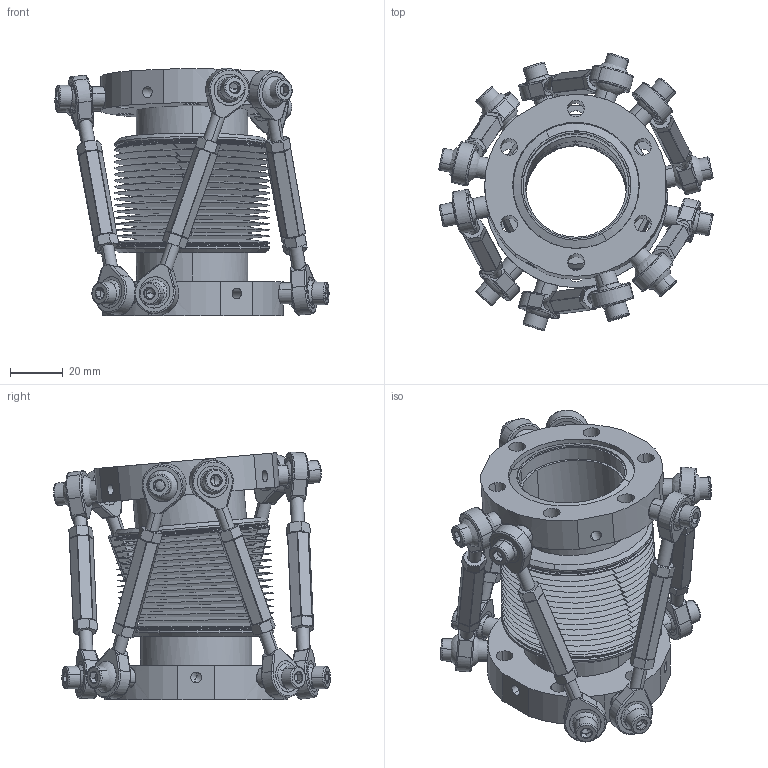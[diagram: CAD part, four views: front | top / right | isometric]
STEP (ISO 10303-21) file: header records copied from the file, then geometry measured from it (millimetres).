
FILE_DESCRIPTION(('Confidential','CAx-IF Rec.Pracs.--- Model Styling and Organization---1.2---2011-12-15'),'2;1');
FILE_NAME('W:\KONSTRUKTION\PRODUCTS\PA\PA40HEX\PA40HEX\PA40(HEX)_angular_5°.stp','2024-04-19T11:31:10+00:00',('none'),('Ferrovac AG'),'CATIA Version 5 Release 21 SP 6 (IN-10)','CATIA V5 STEP AP214','PROPERTY OF FERROVAC AG');
FILE_SCHEMA(('AUTOMOTIVE_DESIGN { 1 0 10303 214 1 1 1 1 }'));
Products named in the file (1): PA40(HEX)_angular_5°
Bounding box: 104.3 x 105.4 x 94.22 mm (x, y, z)
Volume: 142430.2 mm3; surface area: 125401.5 mm2
Topology: 1 solids, 55 shells, 2121 faces, 5413 edges, 3186 vertices
Faces by surface type: plane 699, cylinder 490, cone 398, sphere 314, torus 128, bspline 92
Entity records: 75701 total; most frequent: CARTESIAN_POINT 30557, ORIENTED_EDGE 10274, DIRECTION 6934, EDGE_CURVE 5137, AXIS2_PLACEMENT_3D 3617, VERTEX_POINT 3186, EDGE_LOOP 2359, ADVANCED_FACE 2119
